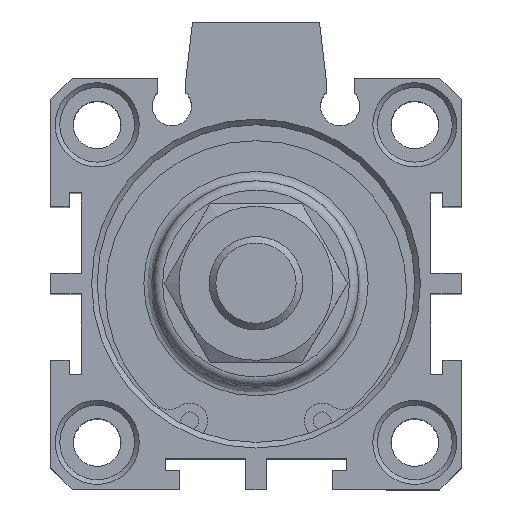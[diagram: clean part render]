
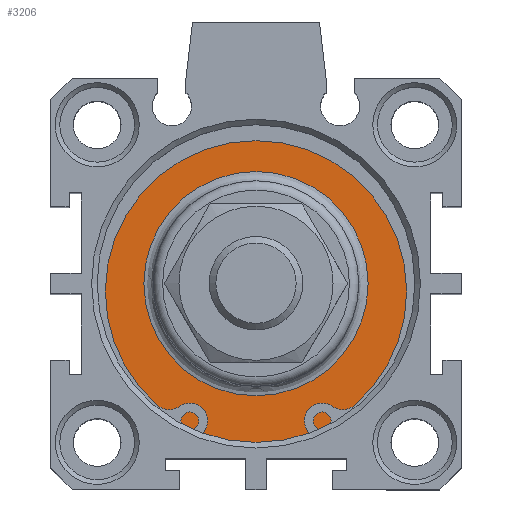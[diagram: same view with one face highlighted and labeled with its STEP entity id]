
A CAD part, top view. The second image highlights one B-rep face of the part: STEP entity #3206.
In plain terms, the highlighted planar face has unit normal (0, 0, 1).
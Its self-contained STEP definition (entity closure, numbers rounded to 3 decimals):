
#3155=CARTESIAN_POINT('',(2.273,12.598,50.8));
#3156=VERTEX_POINT('',#3155);
#3157=CARTESIAN_POINT('',(2.273,0.598,50.8));
#3158=DIRECTION('',(0.0,0.0,1.0));
#3159=DIRECTION('',(0.0,-1.0,0.0));
#3160=AXIS2_PLACEMENT_3D('',#3157,#3158,#3159);
#3161=CIRCLE('',#3160,12.0);
#3162=EDGE_CURVE('',#3156,#3156,#3161,.T.);
#3187=CARTESIAN_POINT('',(2.273,14.598,50.8));
#3188=DIRECTION('',(0.0,0.0,1.0));
#3189=DIRECTION('',(1.0,0.0,0.0));
#3190=AXIS2_PLACEMENT_3D('',#3187,#3188,#3189);
#3191=PLANE('',#3190);
#3192=CARTESIAN_POINT('',(2.273,17.598,50.8));
#3193=VERTEX_POINT('',#3192);
#3194=CARTESIAN_POINT('',(2.273,0.598,50.8));
#3195=DIRECTION('',(0.0,0.0,-1.0));
#3196=DIRECTION('',(0.0,1.0,0.0));
#3197=AXIS2_PLACEMENT_3D('',#3194,#3195,#3196);
#3198=CIRCLE('',#3197,17.);
#3199=EDGE_CURVE('',#3193,#3193,#3198,.T.);
#3200=ORIENTED_EDGE('',*,*,#3199,.F.);
#3201=EDGE_LOOP('',(#3200));
#3202=FACE_OUTER_BOUND('',#3201,.T.);
#3203=ORIENTED_EDGE('',*,*,#3162,.F.);
#3204=EDGE_LOOP('',(#3203));
#3205=FACE_BOUND('',#3204,.T.);
#3206=ADVANCED_FACE('',(#3202,#3205),#3191,.T.);
